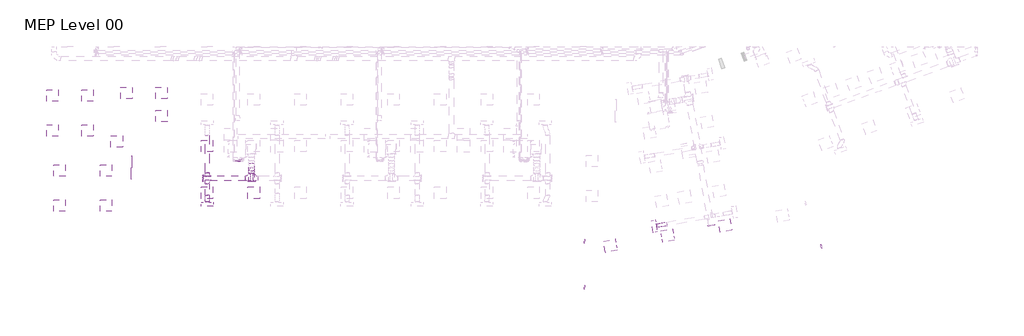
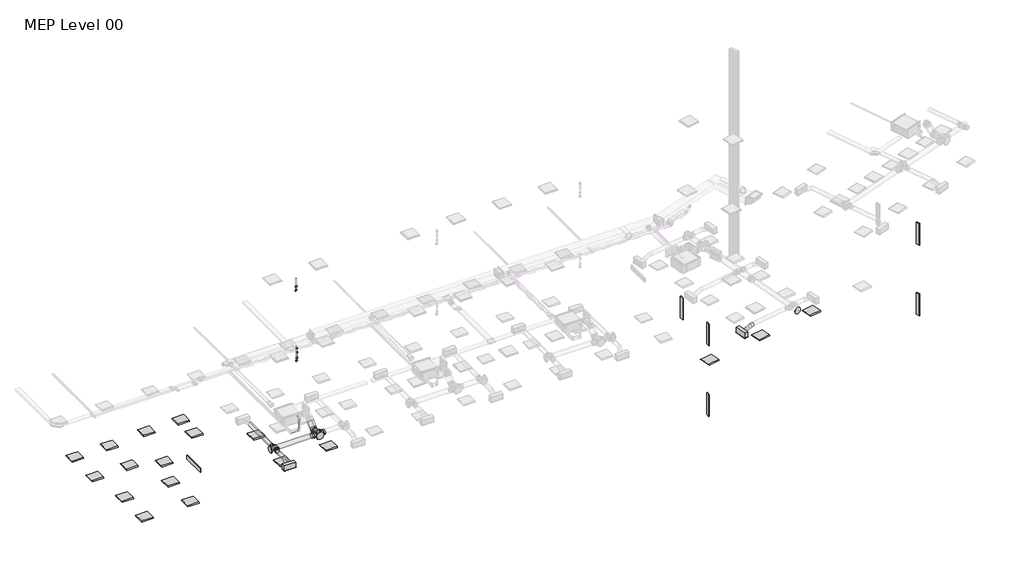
# One storey, part 1 of 33: 24 light fixtures, 8 duct fittings, 7 duct segments, 7 pipe segments, 6 pipe fittings, 2 air terminals.
"""IFC4 building model written with IfcOpenShell, lengths in millimetres."""

from ifc_helpers import new_model, si_unit, point, frame, frame_2d, origin, place, context, project, spatial, circle_curve, ellipse_curve, trimmed, segment, composite_curve, outline, extrude, transform, mapped, element, save
from ifc_brep_helpers import plane_surface, cylinder_surface, advanced_brep
from components import supply_diffuser_with_plenum_linear_slot_hosted_8c379eed, dw144_round_blank_end_standard_f82b0856, dw144_round_blank_end_standard_9aa061e7, dw144_round_segmented_bend_slip_joint_standard_8b80c5ae, dw144_round_shoe_branch_slip_joint_standard_15a2edd8, dw144_round_shoe_branch_slip_joint_standard_67b64720, light_fixture_600x600_230_1c7c1157, light_fixture_600x600_230_b730b5ca, plain_surface_lighting_fixture_200x1200_230_64c2163c, elbow_threaded_gmi_standard_b4aa7741

model = new_model("IFC4")

# Units and contexts
model_context = context("Model", 3, world=origin())
ifc_project = project(units=[si_unit("LENGTHUNIT", "METRE", prefix="MILLI")], contexts=[model_context])

# Site, building, storey
site = spatial("IfcSite", under=ifc_project)
building = spatial("IfcBuilding", under=site)
storey = spatial("IfcBuildingStorey", under=building, Name="MEP Level 00", Elevation=0.0)

# Air terminals
placement = place(None, origin())
supply_diffuser_with_plenum_linear_slot_hosted_shape = supply_diffuser_with_plenum_linear_slot_hosted_8c379eed(model_context)
element("IfcAirTerminal", 1, ObjectType="Supply Diffuser with Plenum - Linear Slot - Hosted : 600mmx193.8mm-200 In Inlet  4-Slot", at=placement, inside=storey, context=model_context, shape_type="MappedRepresentation", body=[
    mapped(supply_diffuser_with_plenum_linear_slot_hosted_shape, transform((9162.2000027, 963.2000004, 2800.0), x_axis=(1.0, 0.0, 0.0), y_axis=(0.0, -1.0, 0.0), z_axis=(0.0, 0.0, -1.0))),
])
element("IfcAirTerminal", 2, ObjectType="Supply Diffuser with Plenum - Linear Slot - Hosted : 600mmx193.8mm-200 In Inlet  4-Slot", at=placement, inside=storey, context=model_context, shape_type="MappedRepresentation", body=[
    mapped(supply_diffuser_with_plenum_linear_slot_hosted_shape, transform((32172.103094, -160.2535064, 2800.0), x_axis=(0.17364817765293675, -0.9848077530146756, 0.0), y_axis=(-0.9848077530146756, -0.17364817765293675, 0.0), z_axis=(0.0, 0.0, -1.0))),
])

# Duct fittings
dw144_round_blank_end_standard_shape = dw144_round_blank_end_standard_f82b0856(model_context)
element("IfcDuctFitting", 3, ObjectType="DW144 Round Blank End : Standard", at=placement, inside=storey, context=model_context, shape_type="MappedRepresentation", body=[
    mapped(dw144_round_blank_end_standard_shape, transform((11451.4561025, 2142.9916128, 3072.2088531), x_axis=(0.0, -1.0, 0.0), y_axis=(1.0, 0.0, 0.0), z_axis=(0.0, 0.0, 1.0))),
])
dw144_round_blank_end_standard_2_shape = dw144_round_blank_end_standard_9aa061e7(model_context)
element("IfcDuctFitting", 4, ObjectType="DW144 Round Blank End : Standard", at=placement, inside=storey, context=model_context, shape_type="MappedRepresentation", body=[
    mapped(dw144_round_blank_end_standard_2_shape, transform((8961.4561025, 2306.5018192, 3072.2088531), x_axis=(-1.0, 0.0, 0.0), y_axis=(0.0, -1.0, 0.0), z_axis=(0.0, 0.0, 1.0))),
])
element("IfcDuctFitting", 5, ObjectType="DW144 Round Blank End : Standard", at=placement, inside=storey, context=model_context, shape_type="MappedRepresentation", body=[
    mapped(dw144_round_blank_end_standard_2_shape, transform((35110.8297064, -106.9527609, 3072.2088531), x_axis=(0.17364817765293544, -0.9848077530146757, 0.0), y_axis=(0.0, 0.0, -1.0), z_axis=(0.9848077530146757, 0.17364817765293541, 0.0))),
])
dw144_round_segmented_bend_slip_joint_standard_shape = dw144_round_segmented_bend_slip_joint_standard_8b80c5ae(model_context)
element("IfcDuctFitting", 6, ObjectType="DW144 Round Segmented Bend - Slip Joint : Standard", at=placement, inside=storey, context=model_context, shape_type="MappedRepresentation", body=[
    mapped(dw144_round_segmented_bend_slip_joint_standard_shape, transform((11451.4561025, 2678.6338536, 3072.2088531), x_axis=(0.0, -0.7071067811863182, -0.7071067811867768), y_axis=(0.0, 0.7071067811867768, -0.7071067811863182), z_axis=(1.0, 0.0, 0.0))),
])
dw144_round_shoe_branch_slip_joint_standard_shape = dw144_round_shoe_branch_slip_joint_standard_15a2edd8(model_context)
element("IfcDuctFitting", 7, ObjectType="DW144 Round Shoe Branch - Slip Joint : Standard", at=placement, inside=storey, context=model_context, shape_type="MappedRepresentation", body=[
    mapped(dw144_round_shoe_branch_slip_joint_standard_shape, transform((9173.9000022, 2181.5018192, 3072.2088531), x_axis=(0.0, -1.0, 0.0), y_axis=(-1.0, 0.0, 0.0), z_axis=(0.0, 0.0, -1.0))),
])
element("IfcDuctFitting", 8, ObjectType="DW144 Round Shoe Branch - Slip Joint : Standard", at=placement, inside=storey, context=model_context, shape_type="MappedRepresentation", body=[
    mapped(dw144_round_shoe_branch_slip_joint_standard_shape, transform((9173.9000022, 2431.5018192, 3072.2088531), x_axis=(0.0, 1.0, 0.0), y_axis=(-1.0, 0.0, 0.0), z_axis=(0.0, 0.0, 1.0))),
])
dw144_round_shoe_branch_slip_joint_standard_2_shape = dw144_round_shoe_branch_slip_joint_standard_67b64720(model_context)
element("IfcDuctFitting", 9, ObjectType="DW144 Round Shoe Branch - Slip Joint : Standard", at=placement, inside=storey, context=model_context, shape_type="MappedRepresentation", body=[
    mapped(dw144_round_shoe_branch_slip_joint_standard_2_shape, transform((11601.4561025, 2306.5018192, 3072.2088531), x_axis=(1.0, 0.0, 0.0), y_axis=(0.0, -1.0, 0.0), z_axis=(0.0, 0.0, -1.0))),
])
element("IfcDuctFitting", 10, ObjectType="DW144 Round Shoe Branch - Slip Joint : Standard", at=placement, inside=storey, context=model_context, shape_type="MappedRepresentation", body=[
    mapped(dw144_round_shoe_branch_slip_joint_standard_2_shape, transform((11301.4561025, 2306.5018192, 3072.2088531), x_axis=(-1.0, 0.0, 0.0), y_axis=(0.0, -1.0, 0.0), z_axis=(0.0, 0.0, 1.0))),
])

# Duct segments
element("IfcDuctSegment", 11, ObjectType="DW144 Segmented Bend / Shoe Branch", at=placement, inside=storey, context=model_context, shape_type="SweptSolid", body=[
    extrude(outline(composite_curve([segment(trimmed(circle_curve(frame_2d((3072.2088531, 11451.4561025)), 150.0), [point((3072.2088531, 11301.4561025))], [point((2922.2088531, 11451.4561025))], False, "CARTESIAN"), True, "CONTINUOUS"), segment(trimmed(circle_curve(frame_2d((3072.2088531, 11451.4561025)), 150.0), [point((2922.2088531, 11451.4561025))], [point((3072.2088531, 11601.4561025))], False, "CARTESIAN"), True, "CONTINUOUS"), segment(trimmed(circle_curve(frame_2d((3072.2088531, 11451.4561025)), 150.0), [point((3072.2088531, 11601.4561025))], [point((3222.2088531, 11451.4561025))], False, "CARTESIAN"), True, "CONTINUOUS"), segment(trimmed(circle_curve(frame_2d((3072.2088531, 11451.4561025)), 150.0), [point((3222.2088531, 11451.4561025))], [point((3072.2088531, 11301.4561025))], False, "CARTESIAN"), True, "CONTINUOUS")], self_intersect=False)), frame((0.0, 2142.9916128, 0.0), z_axis=(0.0, 1.0, 0.0), x_axis=(0.0, 0.0, 1.0)), (0.0, 0.0, 1.0), 411.3781721),
])
element("IfcDuctSegment", 12, ObjectType="DW144 Segmented Bend / Shoe Branch", at=placement, inside=storey, context=model_context, shape_type="SweptSolid", body=[
    extrude(outline(composite_curve([segment(trimmed(circle_curve(frame_2d((0.0, -150.0)), 150.0), [point((-150.0, -150.0))], [point((0.0, 0.0))], False, "CARTESIAN"), True, "CONTINUOUS"), segment(trimmed(circle_curve(frame_2d((0.0, -150.0)), 150.0), [point((0.0, 0.0))], [point((150.0, -150.0))], False, "CARTESIAN"), True, "CONTINUOUS"), segment(trimmed(circle_curve(frame_2d((0.0, -150.0)), 150.0), [point((150.0, -150.0))], [point((0.0, -300.0))], False, "CARTESIAN"), True, "CONTINUOUS"), segment(trimmed(circle_curve(frame_2d((0.0, -150.0)), 150.0), [point((0.0, -300.0))], [point((-150.0, -150.0))], False, "CARTESIAN"), True, "CONTINUOUS")], self_intersect=False)), frame((11451.4561025, 2872.5678364, 3054.0108016), z_axis=(0.0, 0.7071067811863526, 0.7071067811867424), x_axis=(1.0, 0.0, 0.0)), (0.0, 0.0, 1.0), 313.4324567),
])
element("IfcDuctSegment", 13, ObjectType="DW144 Segmented Bend / Shoe Branch", at=placement, inside=storey, context=model_context, shape_type="SweptSolid", body=[
    extrude(outline(composite_curve([segment(trimmed(circle_curve(frame_2d((2306.5018192, 3072.2088531)), 125.0), [point((2431.5018192, 3072.2088531))], [point((2306.5018192, 2947.2088531))], False, "CARTESIAN"), True, "CONTINUOUS"), segment(trimmed(circle_curve(frame_2d((2306.5018192, 3072.2088531)), 125.0), [point((2306.5018192, 2947.2088531))], [point((2181.5018192, 3072.2088531))], False, "CARTESIAN"), True, "CONTINUOUS"), segment(trimmed(circle_curve(frame_2d((2306.5018192, 3072.2088531)), 125.0), [point((2181.5018192, 3072.2088531))], [point((2306.5018192, 3197.2088531))], False, "CARTESIAN"), True, "CONTINUOUS"), segment(trimmed(circle_curve(frame_2d((2306.5018192, 3072.2088531)), 125.0), [point((2306.5018192, 3197.2088531))], [point((2431.5018192, 3072.2088531))], False, "CARTESIAN"), True, "CONTINUOUS")], self_intersect=False)), frame((8961.4561025, 0.0, 0.0), z_axis=(1.0, 0.0, 0.0), x_axis=(0.0, 1.0, 0.0)), (0.0, 0.0, 1.0), 2165.0),
])
element("IfcDuctSegment", 14, ObjectType="DW144 Segmented Bend / Shoe Branch", at=placement, inside=storey, context=model_context, shape_type="SweptSolid", body=[
    extrude(outline(composite_curve([segment(trimmed(circle_curve(frame_2d((3072.2088531, 9173.9000022)), 100.0), [point((3072.2088531, 9273.9000022))], [point((3172.2088531, 9173.9000022))], False, "CARTESIAN"), True, "CONTINUOUS"), segment(trimmed(circle_curve(frame_2d((3072.2088531, 9173.9000022)), 100.0), [point((3172.2088531, 9173.9000022))], [point((3072.2088531, 9073.9000022))], False, "CARTESIAN"), True, "CONTINUOUS"), segment(trimmed(circle_curve(frame_2d((3072.2088531, 9173.9000022)), 100.0), [point((3072.2088531, 9073.9000022))], [point((2972.2088531, 9173.9000022))], False, "CARTESIAN"), True, "CONTINUOUS"), segment(trimmed(circle_curve(frame_2d((3072.2088531, 9173.9000022)), 100.0), [point((2972.2088531, 9173.9000022))], [point((3072.2088531, 9273.9000022))], False, "CARTESIAN"), True, "CONTINUOUS")], self_intersect=False)), frame((0.0, 1441.5018192, 0.0), z_axis=(0.0, 1.0, 0.0), x_axis=(0.0, 0.0, 1.0)), (0.0, 0.0, 1.0), 590.0),
])
element("IfcDuctSegment", 15, ObjectType="DW144 Segmented Bend / Shoe Branch", at=placement, inside=storey, context=model_context, shape_type="SweptSolid", body=[
    extrude(outline(composite_curve([segment(trimmed(circle_curve(frame_2d((3072.2088531, 9173.9000022)), 100.0), [point((3072.2088531, 9273.9000022))], [point((3172.2088531, 9173.9000022))], False, "CARTESIAN"), True, "CONTINUOUS"), segment(trimmed(circle_curve(frame_2d((3072.2088531, 9173.9000022)), 100.0), [point((3172.2088531, 9173.9000022))], [point((3072.2088531, 9073.9000022))], False, "CARTESIAN"), True, "CONTINUOUS"), segment(trimmed(circle_curve(frame_2d((3072.2088531, 9173.9000022)), 100.0), [point((3072.2088531, 9073.9000022))], [point((2972.2088531, 9173.9000022))], False, "CARTESIAN"), True, "CONTINUOUS"), segment(trimmed(circle_curve(frame_2d((3072.2088531, 9173.9000022)), 100.0), [point((2972.2088531, 9173.9000022))], [point((3072.2088531, 9273.9000022))], False, "CARTESIAN"), True, "CONTINUOUS")], self_intersect=False)), frame((0.0, 2581.5018192, 0.0), z_axis=(0.0, 1.0, 0.0), x_axis=(0.0, 0.0, 1.0)), (0.0, 0.0, 1.0), 1950.0),
])
element("IfcDuctSegment", 16, ObjectType="Flex - Round", at=placement, inside=storey, context=model_context, shape_type="AdvancedBrep", body=[
    advanced_brep(
    [(9273.9000022, 1441.5018192, 3072.2088531), (9173.9000022, 1441.5018192, 2972.2088531), (9073.9000022, 1441.5018192, 3072.2088531), (9173.9000022, 1441.5018192, 3172.2088531), (9273.9000022, 1419.9886644, 3072.2088531), (9173.9000022, 1434.4041273, 2972.2088531), (9073.9000022, 1422.5932881, 3072.2088531), (9173.9000022, 1408.1778252, 3172.2088531), (9262.2000027, 1092.1000004, 2954.4), (9162.2000027, 1092.1000004, 3054.4), (9062.2000027, 1092.1000004, 2954.4), (9162.2000027, 1092.1000004, 2854.4), (9272.0154345, 1348.8904029, 3053.2328893), (9172.6402079, 1386.8764181, 2959.5238159), (9072.1283201, 1355.7538157, 3054.3695504), (9171.5035467, 1317.7678004, 3148.0786237), (9267.9552415, 1262.5544078, 3012.3502664), (9169.0041626, 1309.5595036, 2922.9119919), (9068.1447633, 1271.0474118, 3014.2585867), (9167.0958423, 1224.0423161, 3103.6968612), (9263.9716847, 1177.8480039, 2972.2393027), (9164.5964582, 1215.8340192, 2878.5302294), (9064.0845704, 1184.7114168, 2973.3759639), (9163.459797, 1146.7254015, 3067.0850372), (9262.2000027, 1111.0085316, 2954.4), (9162.2000027, 1125.4239944, 2854.4), (9062.2000027, 1113.6131552, 2954.4), (9162.2000027, 1099.1976924, 3054.4)],
    [
        (0, 1, circle_curve(frame((9173.9000022, 1441.5018192, 3072.2088531), z_axis=(0.0, 1.0, 0.0), x_axis=(1.0, 0.0, 0.0)), 100.0)),
        (1, 2, circle_curve(frame((9173.9000022, 1441.5018192, 3072.2088531), z_axis=(0.0, 1.0, 0.0), x_axis=(1.0, 0.0, 0.0)), 100.0)),
        (2, 3, circle_curve(frame((9173.9000022, 1441.5018192, 3072.2088531), z_axis=(0.0, 1.0, 0.0), x_axis=(1.0, 0.0, 0.0)), 100.0)),
        (3, 0, circle_curve(frame((9173.9000022, 1441.5018192, 3072.2088531), z_axis=(0.0, 1.0, 0.0), x_axis=(1.0, 0.0, 0.0)), 100.0)),
        (0, 4),
        (4, 5, ellipse_curve(frame((9173.9000022, 1421.2909763, 3072.2088531), z_axis=(0.012911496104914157, 0.9914289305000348, 0.13000757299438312), x_axis=(-0.0979801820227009, 0.13064714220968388, -0.9865754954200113)), 100.8645168, 100.0)),
        (5, 1),
        (5, 6, ellipse_curve(frame((9173.9000022, 1421.2909763, 3072.2088531), z_axis=(0.012911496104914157, 0.9914289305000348, 0.13000757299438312), x_axis=(-0.0979801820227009, 0.13064714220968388, -0.9865754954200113)), 100.8645168, 100.0)),
        (6, 2),
        (6, 7, ellipse_curve(frame((9173.9000022, 1421.2909763, 3072.2088531), z_axis=(0.012911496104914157, 0.9914289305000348, 0.13000757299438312), x_axis=(-0.0979801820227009, 0.13064714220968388, -0.9865754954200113)), 100.8645168, 100.0)),
        (7, 3),
        (7, 4, ellipse_curve(frame((9173.9000022, 1421.2909763, 3072.2088531), z_axis=(0.012911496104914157, 0.9914289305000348, 0.13000757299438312), x_axis=(-0.0979801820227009, 0.13064714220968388, -0.9865754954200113)), 100.8645168, 100.0)),
        (8, 9, circle_curve(frame((9162.2000027, 1092.1000004, 2954.4), z_axis=(0.0, -1.0, 0.0), x_axis=(1.0, 0.0, 0.0)), 100.0)),
        (9, 10, circle_curve(frame((9162.2000027, 1092.1000004, 2954.4), z_axis=(0.0, -1.0, 0.0), x_axis=(1.0, 0.0, 0.0)), 100.0)),
        (10, 11, circle_curve(frame((9162.2000027, 1092.1000004, 2954.4), z_axis=(0.0, -1.0, 0.0), x_axis=(1.0, 0.0, 0.0)), 100.0)),
        (11, 8, circle_curve(frame((9162.2000027, 1092.1000004, 2954.4), z_axis=(0.0, -1.0, 0.0), x_axis=(1.0, 0.0, 0.0)), 100.0)),
        (4, 12),
        (12, 13, ellipse_curve(frame((9172.0718773, 1352.3221093, 3053.8012198), z_axis=(0.03417490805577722, 0.9383065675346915, 0.34411169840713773), x_axis=(-0.0927302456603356, 0.3458045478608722, -0.9337131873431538)), 100.4159667, 100.0)),
        (13, 5),
        (13, 14, ellipse_curve(frame((9172.0718773, 1352.3221093, 3053.8012198), z_axis=(0.03417490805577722, 0.9383065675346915, 0.34411169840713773), x_axis=(-0.0927302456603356, 0.3458045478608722, -0.9337131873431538)), 100.4159667, 100.0)),
        (14, 6),
        (14, 15, ellipse_curve(frame((9172.0718773, 1352.3221093, 3053.8012198), z_axis=(0.03417490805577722, 0.9383065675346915, 0.34411169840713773), x_axis=(-0.0927302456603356, 0.3458045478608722, -0.9337131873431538)), 100.4159667, 100.0)),
        (15, 7),
        (15, 12, ellipse_curve(frame((9172.0718773, 1352.3221093, 3053.8012198), z_axis=(0.03417490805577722, 0.9383065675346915, 0.34411169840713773), x_axis=(-0.0927302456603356, 0.3458045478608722, -0.9337131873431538)), 100.4159667, 100.0)),
        (12, 16),
        (16, 17, circle_curve(frame((9168.0500024, 1266.8009098, 3013.3044266), z_axis=(0.04246501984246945, 0.9029767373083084, 0.4275859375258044), x_axis=(0.9990523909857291, -0.04246501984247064, -0.009541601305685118)), 100.0)),
        (17, 13),
        (17, 18, circle_curve(frame((9168.0500024, 1266.8009098, 3013.3044266), z_axis=(0.04246501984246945, 0.9029767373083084, 0.4275859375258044), x_axis=(0.9990523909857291, -0.04246501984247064, -0.009541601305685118)), 100.0)),
        (18, 14),
        (18, 19, circle_curve(frame((9168.0500024, 1266.8009098, 3013.3044266), z_axis=(0.04246501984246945, 0.9029767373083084, 0.4275859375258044), x_axis=(0.9990523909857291, -0.04246501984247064, -0.009541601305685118)), 100.0)),
        (19, 15),
        (19, 16, circle_curve(frame((9168.0500024, 1266.8009098, 3013.3044266), z_axis=(0.04246501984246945, 0.9029767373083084, 0.4275859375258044), x_axis=(0.9990523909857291, -0.04246501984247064, -0.009541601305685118)), 100.0)),
        (16, 20),
        (20, 21, ellipse_curve(frame((9164.0281276, 1181.2797104, 2972.8076333), z_axis=(0.034174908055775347, 0.9383065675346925, 0.3441116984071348), x_axis=(0.09273024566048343, -0.34580454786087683, 0.9337131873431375)), 100.4159667, 100.0)),
        (21, 17),
        (21, 22, ellipse_curve(frame((9164.0281276, 1181.2797104, 2972.8076333), z_axis=(0.034174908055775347, 0.9383065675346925, 0.3441116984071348), x_axis=(0.09273024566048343, -0.34580454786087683, 0.9337131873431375)), 100.4159667, 100.0)),
        (22, 18),
        (22, 23, ellipse_curve(frame((9164.0281276, 1181.2797104, 2972.8076333), z_axis=(0.034174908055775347, 0.9383065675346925, 0.3441116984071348), x_axis=(0.09273024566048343, -0.34580454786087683, 0.9337131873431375)), 100.4159667, 100.0)),
        (23, 19),
        (23, 20, ellipse_curve(frame((9164.0281276, 1181.2797104, 2972.8076333), z_axis=(0.034174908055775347, 0.9383065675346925, 0.3441116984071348), x_axis=(0.09273024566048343, -0.34580454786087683, 0.9337131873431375)), 100.4159667, 100.0)),
        (20, 24),
        (24, 25, ellipse_curve(frame((9162.2000027, 1112.3108434, 2954.4), z_axis=(0.012911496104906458, 0.9914289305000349, 0.1300075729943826), x_axis=(0.09798018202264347, -0.13064714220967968, 0.9865754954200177)), 100.8645168, 100.0)),
        (25, 21),
        (25, 26, ellipse_curve(frame((9162.2000027, 1112.3108434, 2954.4), z_axis=(0.012911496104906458, 0.9914289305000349, 0.1300075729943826), x_axis=(0.09798018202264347, -0.13064714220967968, 0.9865754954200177)), 100.8645168, 100.0)),
        (26, 22),
        (26, 27, ellipse_curve(frame((9162.2000027, 1112.3108434, 2954.4), z_axis=(0.012911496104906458, 0.9914289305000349, 0.1300075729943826), x_axis=(0.09798018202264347, -0.13064714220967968, 0.9865754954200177)), 100.8645168, 100.0)),
        (27, 23),
        (27, 24, ellipse_curve(frame((9162.2000027, 1112.3108434, 2954.4), z_axis=(0.012911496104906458, 0.9914289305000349, 0.1300075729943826), x_axis=(0.09798018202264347, -0.13064714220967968, 0.9865754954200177)), 100.8645168, 100.0)),
        (24, 8),
        (11, 25),
        (10, 26),
        (9, 27),
    ],
    [
        plane_surface(frame((9073.9000022, 1441.5018192, 3072.2088531), z_axis=(0.0, 1.0, 0.0), x_axis=(0.0, 0.0, -1.0))),
        cylinder_surface(frame((9173.9000022, 1441.5018192, 3072.2088531), z_axis=(0.0, 1.0, 0.0), x_axis=(1.0, 0.0, 0.0)), 100.0),
        plane_surface(frame((9062.2000027, 1092.1000004, 2954.4), z_axis=(0.0, -1.0, 0.0), x_axis=(0.0, 0.0, -1.0))),
        cylinder_surface(frame((9173.9000022, 1421.2909763, 3072.2088531), z_axis=(0.02560166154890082, 0.965862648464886, 0.25778653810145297), x_axis=(0.9996665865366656, -0.02560166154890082, -0.003357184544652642)), 100.0),
        cylinder_surface(frame((9172.0718773, 1352.3221093, 3053.8012198), z_axis=(0.04246501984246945, 0.9029767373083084, 0.4275859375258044), x_axis=(0.9990523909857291, -0.04246501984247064, -0.009541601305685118)), 100.0),
        cylinder_surface(frame((9168.0500024, 1266.8009098, 3013.3044266), z_axis=(0.04246501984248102, 0.90297673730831, 0.4275859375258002), x_axis=(0.9990523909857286, -0.042465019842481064, -0.00954160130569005)), 100.0),
        cylinder_surface(frame((9164.0281276, 1181.2797104, 2972.8076333), z_axis=(0.02560166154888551, 0.9658626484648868, 0.2577865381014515), x_axis=(0.999666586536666, -0.025601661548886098, -0.0033571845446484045)), 100.0),
        cylinder_surface(frame((9162.2000027, 1112.3108434, 2954.4), z_axis=(0.0, 1.0, 0.0), x_axis=(1.0, 0.0, 0.0)), 100.0),
    ],
    [
        (0, [[1, 2, 3, 4]]),
        (1, [[-1, 5, 6, 7]]),
        (1, [[-2, -7, 8, 9]]),
        (1, [[-3, -9, 10, 11]]),
        (1, [[-4, -11, 12, -5]]),
        (2, [[13, 14, 15, 16]]),
        (3, [[-6, 17, 18, 19]]),
        (3, [[-8, -19, 20, 21]]),
        (3, [[-10, -21, 22, 23]]),
        (3, [[-12, -23, 24, -17]]),
        (4, [[-18, 25, 26, 27]]),
        (4, [[-20, -27, 28, 29]]),
        (4, [[-22, -29, 30, 31]]),
        (4, [[-24, -31, 32, -25]]),
        (5, [[-26, 33, 34, 35]]),
        (5, [[-28, -35, 36, 37]]),
        (5, [[-30, -37, 38, 39]]),
        (5, [[-32, -39, 40, -33]]),
        (6, [[-34, 41, 42, 43]]),
        (6, [[-36, -43, 44, 45]]),
        (6, [[-38, -45, 46, 47]]),
        (6, [[-40, -47, 48, -41]]),
        (7, [[-42, 49, -16, 50]]),
        (7, [[-44, -50, -15, 51]]),
        (7, [[-46, -51, -14, 52]]),
        (7, [[-48, -52, -13, -49]]),
    ],
),
])
element("IfcDuctSegment", 17, ObjectType="Flex - Round", at=placement, inside=storey, context=model_context, shape_type="AdvancedBrep", body=[
    advanced_brep(
    [(32832.8785941, -145.2836188, 3072.2088531), (32815.5137763, -46.8028435, 2972.2088531), (32798.1489586, 51.6779318, 3072.2088531), (32815.5137763, -46.8028435, 3172.2088531), (32819.3106048, -147.6760213, 3072.2088531), (32809.5455151, -47.8552089, 2972.2088531), (32784.5809693, 49.2855293, 3072.2088531), (32794.3460591, -50.5352831, 3172.2088531), (32316.4096312, -236.3510316, 2954.4), (32299.0448134, -137.8702563, 3054.4), (32281.6799956, -39.389481, 2954.4), (32299.0448134, -137.8702563, 2854.4), (32702.5547132, -168.2632352, 3053.8012198), (32707.5239218, -65.8443685, 2956.1242166), (32667.8250777, 28.6983154, 3053.8012198), (32662.8558691, -73.7205513, 3151.478223), (32574.6441126, -190.8173252, 3013.3044266), (32586.5930356, -87.1677465, 2917.8372171), (32539.9144771, 6.1442254, 3013.3044266), (32527.9655541, -97.5053533, 3108.771636), (32446.7335121, -213.3714152, 2972.8076333), (32451.7027206, -110.9525485, 2875.1306301), (32412.0038765, -16.4098646, 2972.8076333), (32407.0346679, -118.8287313, 3070.4846365), (32329.9776204, -233.958629, 2954.4), (32320.2125306, -134.1378166, 2854.4), (32295.2479849, -36.9970784, 2954.4), (32305.0130746, -136.8178908, 3054.4)],
    [
        (0, 1, circle_curve(frame((32815.5137763, -46.8028435, 3072.2088531), z_axis=(0.9848077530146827, 0.17364817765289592, 0.0), x_axis=(0.17364817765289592, -0.9848077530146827, 0.0)), 100.0)),
        (1, 2, circle_curve(frame((32815.5137763, -46.8028435, 3072.2088531), z_axis=(0.9848077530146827, 0.17364817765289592, 0.0), x_axis=(0.17364817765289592, -0.9848077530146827, 0.0)), 100.0)),
        (2, 3, circle_curve(frame((32815.5137763, -46.8028435, 3072.2088531), z_axis=(0.9848077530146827, 0.17364817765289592, 0.0), x_axis=(0.17364817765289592, -0.9848077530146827, 0.0)), 100.0)),
        (3, 0, circle_curve(frame((32815.5137763, -46.8028435, 3072.2088531), z_axis=(0.9848077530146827, 0.17364817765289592, 0.0), x_axis=(0.17364817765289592, -0.9848077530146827, 0.0)), 100.0)),
        (0, 4),
        (4, 5, ellipse_curve(frame((32801.9457871, -49.195246, 3072.2088531), z_axis=(0.9818884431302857, 0.17313342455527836, 0.07694090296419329), x_axis=(0.07577199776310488, 0.013360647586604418, -0.997035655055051)), 100.2973158, 100.0)),
        (5, 1),
        (5, 6, ellipse_curve(frame((32801.9457871, -49.195246, 3072.2088531), z_axis=(0.9818884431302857, 0.17313342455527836, 0.07694090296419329), x_axis=(0.07577199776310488, 0.013360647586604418, -0.997035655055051)), 100.2973158, 100.0)),
        (6, 2),
        (6, 7, ellipse_curve(frame((32801.9457871, -49.195246, 3072.2088531), z_axis=(0.9818884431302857, 0.17313342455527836, 0.07694090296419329), x_axis=(0.07577199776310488, 0.013360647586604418, -0.997035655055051)), 100.2973158, 100.0)),
        (7, 3),
        (7, 4, ellipse_curve(frame((32801.9457871, -49.195246, 3072.2088531), z_axis=(0.9818884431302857, 0.17313342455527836, 0.07694090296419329), x_axis=(0.07577199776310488, 0.013360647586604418, -0.997035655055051)), 100.2973158, 100.0)),
        (8, 9, circle_curve(frame((32299.0448134, -137.8702563, 2954.4), z_axis=(-0.9848077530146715, -0.17364817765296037, 0.0), x_axis=(0.17364817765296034, -0.9848077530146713, 0.0)), 100.0)),
        (9, 10, circle_curve(frame((32299.0448134, -137.8702563, 2954.4), z_axis=(-0.9848077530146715, -0.17364817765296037, 0.0), x_axis=(0.17364817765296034, -0.9848077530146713, 0.0)), 100.0)),
        (10, 11, circle_curve(frame((32299.0448134, -137.8702563, 2954.4), z_axis=(-0.9848077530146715, -0.17364817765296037, 0.0), x_axis=(0.17364817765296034, -0.9848077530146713, 0.0)), 100.0)),
        (11, 8, circle_curve(frame((32299.0448134, -137.8702563, 2954.4), z_axis=(-0.9848077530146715, -0.17364817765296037, 0.0), x_axis=(0.17364817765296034, -0.9848077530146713, 0.0)), 100.0)),
        (4, 12),
        (12, 13, ellipse_curve(frame((32685.1898954, -69.7824599, 3053.8012198), z_axis=(0.9592908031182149, 0.16914885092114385, 0.22616326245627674), x_axis=(0.22272733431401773, 0.03927283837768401, -0.9740894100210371)), 100.2751926, 100.0)),
        (13, 5),
        (13, 14, ellipse_curve(frame((32685.1898954, -69.7824599, 3053.8012198), z_axis=(0.9592908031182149, 0.16914885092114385, 0.22616326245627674), x_axis=(0.22272733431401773, 0.03927283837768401, -0.9740894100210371)), 100.2751926, 100.0)),
        (14, 6),
        (14, 15, ellipse_curve(frame((32685.1898954, -69.7824599, 3053.8012198), z_axis=(0.9592908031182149, 0.16914885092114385, 0.22616326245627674), x_axis=(0.22272733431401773, 0.03927283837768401, -0.9740894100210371)), 100.2751926, 100.0)),
        (15, 7),
        (15, 12, ellipse_curve(frame((32685.1898954, -69.7824599, 3053.8012198), z_axis=(0.9592908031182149, 0.16914885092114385, 0.22616326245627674), x_axis=(0.22272733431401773, 0.03927283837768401, -0.9740894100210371)), 100.2751926, 100.0)),
        (12, 16),
        (16, 17, circle_curve(frame((32557.2792949, -92.3365499, 3013.3044266), z_axis=(0.9401684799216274, 0.16577706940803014, 0.2976595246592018), x_axis=(0.17364817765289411, -0.984807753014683, 0.0)), 100.0)),
        (17, 13),
        (17, 18, circle_curve(frame((32557.2792949, -92.3365499, 3013.3044266), z_axis=(0.9401684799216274, 0.16577706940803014, 0.2976595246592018), x_axis=(0.17364817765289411, -0.984807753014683, 0.0)), 100.0)),
        (18, 14),
        (18, 19, circle_curve(frame((32557.2792949, -92.3365499, 3013.3044266), z_axis=(0.9401684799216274, 0.16577706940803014, 0.2976595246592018), x_axis=(0.17364817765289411, -0.984807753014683, 0.0)), 100.0)),
        (19, 15),
        (19, 16, circle_curve(frame((32557.2792949, -92.3365499, 3013.3044266), z_axis=(0.9401684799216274, 0.16577706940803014, 0.2976595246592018), x_axis=(0.17364817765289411, -0.984807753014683, 0.0)), 100.0)),
        (16, 20),
        (20, 21, ellipse_curve(frame((32429.3686943, -114.8906399, 2972.8076333), z_axis=(0.959290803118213, 0.1691488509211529, 0.22616326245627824), x_axis=(-0.22272733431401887, -0.03927283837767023, 0.9740894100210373)), 100.2751926, 100.0)),
        (21, 17),
        (21, 22, ellipse_curve(frame((32429.3686943, -114.8906399, 2972.8076333), z_axis=(0.959290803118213, 0.1691488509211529, 0.22616326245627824), x_axis=(-0.22272733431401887, -0.03927283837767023, 0.9740894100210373)), 100.2751926, 100.0)),
        (22, 18),
        (22, 23, ellipse_curve(frame((32429.3686943, -114.8906399, 2972.8076333), z_axis=(0.959290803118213, 0.1691488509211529, 0.22616326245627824), x_axis=(-0.22272733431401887, -0.03927283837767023, 0.9740894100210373)), 100.2751926, 100.0)),
        (23, 19),
        (23, 20, ellipse_curve(frame((32429.3686943, -114.8906399, 2972.8076333), z_axis=(0.959290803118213, 0.1691488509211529, 0.22616326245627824), x_axis=(-0.22272733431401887, -0.03927283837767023, 0.9740894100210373)), 100.2751926, 100.0)),
        (20, 24),
        (24, 25, ellipse_curve(frame((32312.6128026, -135.4778537, 2954.4), z_axis=(0.9818884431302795, 0.1731334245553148, 0.07694090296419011), x_axis=(-0.07577199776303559, -0.013360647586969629, 0.9970356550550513)), 100.2973158, 100.0)),
        (25, 21),
        (25, 26, ellipse_curve(frame((32312.6128026, -135.4778537, 2954.4), z_axis=(0.9818884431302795, 0.1731334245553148, 0.07694090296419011), x_axis=(-0.07577199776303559, -0.013360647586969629, 0.9970356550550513)), 100.2973158, 100.0)),
        (26, 22),
        (26, 27, ellipse_curve(frame((32312.6128026, -135.4778537, 2954.4), z_axis=(0.9818884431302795, 0.1731334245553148, 0.07694090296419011), x_axis=(-0.07577199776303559, -0.013360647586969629, 0.9970356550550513)), 100.2973158, 100.0)),
        (27, 23),
        (27, 24, ellipse_curve(frame((32312.6128026, -135.4778537, 2954.4), z_axis=(0.9818884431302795, 0.1731334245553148, 0.07694090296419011), x_axis=(-0.07577199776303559, -0.013360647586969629, 0.9970356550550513)), 100.2973158, 100.0)),
        (24, 8),
        (11, 25),
        (10, 26),
        (9, 27),
    ],
    [
        plane_surface(frame((32815.5137763, -46.8028435, 2972.2088531), z_axis=(0.9848077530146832, 0.1736481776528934, 0.0), x_axis=(0.1736481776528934, -0.9848077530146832, 0.0))),
        cylinder_surface(frame((32815.5137763, -46.8028435, 3072.2088531), z_axis=(0.9848077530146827, 0.17364817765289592, 0.0), x_axis=(0.17364817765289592, -0.9848077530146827, 0.0)), 100.0),
        plane_surface(frame((32299.0448134, -137.8702563, 2854.4), z_axis=(-0.9848077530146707, -0.17364817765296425, 0.0), x_axis=(0.17364817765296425, -0.9848077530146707, 0.0))),
        cylinder_surface(frame((32801.9457871, -49.195246, 3072.2088531), z_axis=(0.9731478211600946, 0.17159221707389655, 0.15342564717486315), x_axis=(0.17364817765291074, -0.9848077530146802, 0.0)), 100.0),
        cylinder_surface(frame((32685.1898954, -69.7824599, 3053.8012198), z_axis=(0.9401684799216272, 0.1657770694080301, 0.29765952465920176), x_axis=(0.17364817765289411, -0.984807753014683, 0.0)), 100.0),
        cylinder_surface(frame((32557.2792949, -92.3365499, 3013.3044266), z_axis=(0.9401684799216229, 0.1657770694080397, 0.2976595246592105), x_axis=(0.17364817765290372, -0.9848077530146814, 0.0)), 100.0),
        cylinder_surface(frame((32429.3686943, -114.8906399, 2972.8076333), z_axis=(0.9731478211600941, 0.17159221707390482, 0.15342564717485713), x_axis=(0.17364817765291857, -0.9848077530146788, 0.0)), 100.0),
        cylinder_surface(frame((32312.6128026, -135.4778537, 2954.4), z_axis=(0.9848077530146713, 0.17364817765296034, 0.0), x_axis=(0.17364817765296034, -0.9848077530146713, 0.0)), 100.0),
    ],
    [
        (0, [[1, 2, 3, 4]]),
        (1, [[-1, 5, 6, 7]]),
        (1, [[-2, -7, 8, 9]]),
        (1, [[-3, -9, 10, 11]]),
        (1, [[-4, -11, 12, -5]]),
        (2, [[13, 14, 15, 16]]),
        (3, [[-6, 17, 18, 19]]),
        (3, [[-8, -19, 20, 21]]),
        (3, [[-10, -21, 22, 23]]),
        (3, [[-12, -23, 24, -17]]),
        (4, [[-18, 25, 26, 27]]),
        (4, [[-20, -27, 28, 29]]),
        (4, [[-22, -29, 30, 31]]),
        (4, [[-24, -31, 32, -25]]),
        (5, [[-26, 33, 34, 35]]),
        (5, [[-28, -35, 36, 37]]),
        (5, [[-30, -37, 38, 39]]),
        (5, [[-32, -39, 40, -33]]),
        (6, [[-34, 41, 42, 43]]),
        (6, [[-36, -43, 44, 45]]),
        (6, [[-38, -45, 46, 47]]),
        (6, [[-40, -47, 48, -41]]),
        (7, [[-42, 49, -16, 50]]),
        (7, [[-44, -50, -15, 51]]),
        (7, [[-46, -51, -14, 52]]),
        (7, [[-48, -52, -13, -49]]),
    ],
),
])

# Light fixtures
light_fixture_600x600_230_shape = light_fixture_600x600_230_1c7c1157(model_context)
element("IfcLightFixture", 18, ObjectType="ELEKTRA Recessed Lighting Fixture : 600x600 - 230", at=placement, inside=storey, context=model_context, shape_type="MappedRepresentation", body=[
    mapped(light_fixture_600x600_230_shape, transform((29669.4055208, -1515.4305638, 2800.0), x_axis=(0.9848077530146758, 0.17364817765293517, 0.0), y_axis=(0.17364817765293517, -0.9848077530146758, 0.0), z_axis=(0.0, 0.0, -1.0))),
])
element("IfcLightFixture", 19, ObjectType="ELEKTRA Recessed Lighting Fixture : 600x600 - 230", at=placement, inside=storey, context=model_context, shape_type="MappedRepresentation", body=[
    mapped(light_fixture_600x600_230_shape, transform((32623.8287798, -994.4860308, 2800.0), x_axis=(0.9848077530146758, 0.17364817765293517, 0.0), y_axis=(0.17364817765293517, -0.9848077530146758, 0.0), z_axis=(0.0, 0.0, -1.0))),
])
element("IfcLightFixture", 20, ObjectType="ELEKTRA Recessed Lighting Fixture : 600x600 - 230", at=placement, inside=storey, context=model_context, shape_type="MappedRepresentation", body=[
    mapped(light_fixture_600x600_230_shape, transform((8862.2000027, 1263.2000004, 2800.0), x_axis=(1.0, 0.0, 0.0), y_axis=(0.0, -1.0, 0.0), z_axis=(0.0, 0.0, -1.0))),
])
element("IfcLightFixture", 21, ObjectType="ELEKTRA Recessed Lighting Fixture : 600x600 - 230", at=placement, inside=storey, context=model_context, shape_type="MappedRepresentation", body=[
    mapped(light_fixture_600x600_230_shape, transform((11262.2000027, 1263.2000004, 2800.0), x_axis=(1.0, 0.0, 0.0), y_axis=(0.0, -1.0, 0.0), z_axis=(0.0, 0.0, -1.0))),
])
element("IfcLightFixture", 22, ObjectType="ELEKTRA Recessed Lighting Fixture : 600x600 - 230", at=placement, inside=storey, context=model_context, shape_type="MappedRepresentation", body=[
    mapped(light_fixture_600x600_230_shape, transform((6508.9500027, 6400.6000005, 2800.0), x_axis=(1.0, 0.0, 0.0), y_axis=(0.0, -1.0, 0.0), z_axis=(0.0, 0.0, -1.0))),
])
element("IfcLightFixture", 23, ObjectType="ELEKTRA Recessed Lighting Fixture : 600x600 - 230", at=placement, inside=storey, context=model_context, shape_type="MappedRepresentation", body=[
    mapped(light_fixture_600x600_230_shape, transform((4708.9500027, 6400.6000005, 2800.0), x_axis=(1.0, 0.0, 0.0), y_axis=(0.0, -1.0, 0.0), z_axis=(0.0, 0.0, -1.0))),
])
element("IfcLightFixture", 24, ObjectType="ELEKTRA Recessed Lighting Fixture : 600x600 - 230", at=placement, inside=storey, context=model_context, shape_type="MappedRepresentation", body=[
    mapped(light_fixture_600x600_230_shape, transform((6508.9500027, 5200.6000005, 2800.0), x_axis=(1.0, 0.0, 0.0), y_axis=(0.0, -1.0, 0.0), z_axis=(0.0, 0.0, -1.0))),
])
element("IfcLightFixture", 25, ObjectType="ELEKTRA Recessed Lighting Fixture : 600x600 - 230", at=placement, inside=storey, context=model_context, shape_type="MappedRepresentation", body=[
    mapped(light_fixture_600x600_230_shape, transform((899.8500022, 6263.6000007, 2800.0), x_axis=(1.0, 0.0, 0.0), y_axis=(0.0, -1.0, 0.0), z_axis=(0.0, 0.0, -1.0))),
])
element("IfcLightFixture", 26, ObjectType="ELEKTRA Recessed Lighting Fixture : 600x600 - 230", at=placement, inside=storey, context=model_context, shape_type="MappedRepresentation", body=[
    mapped(light_fixture_600x600_230_shape, transform((2699.8500022, 6263.6000007, 2800.0), x_axis=(1.0, 0.0, 0.0), y_axis=(0.0, -1.0, 0.0), z_axis=(0.0, 0.0, -1.0))),
])
element("IfcLightFixture", 27, ObjectType="ELEKTRA Recessed Lighting Fixture : 600x600 - 230", at=placement, inside=storey, context=model_context, shape_type="MappedRepresentation", body=[
    mapped(light_fixture_600x600_230_shape, transform((899.8500021, 4463.6000005, 2800.0), x_axis=(1.0, 0.0, 0.0), y_axis=(0.0, -1.0, 0.0), z_axis=(0.0, 0.0, -1.0))),
])
element("IfcLightFixture", 28, ObjectType="ELEKTRA Recessed Lighting Fixture : 600x600 - 230", at=placement, inside=storey, context=model_context, shape_type="MappedRepresentation", body=[
    mapped(light_fixture_600x600_230_shape, transform((1265.1000015, 599.5000004, 2800.0), x_axis=(1.0, 0.0, 0.0), y_axis=(0.0, -1.0, 0.0), z_axis=(0.0, 0.0, -1.0))),
])
element("IfcLightFixture", 29, ObjectType="ELEKTRA Recessed Lighting Fixture : 600x600 - 230", at=placement, inside=storey, context=model_context, shape_type="MappedRepresentation", body=[
    mapped(light_fixture_600x600_230_shape, transform((3665.1000015, 599.5000004, 2800.0), x_axis=(1.0, 0.0, 0.0), y_axis=(0.0, -1.0, 0.0), z_axis=(0.0, 0.0, -1.0))),
])
element("IfcLightFixture", 30, ObjectType="ELEKTRA Recessed Lighting Fixture : 600x600 - 230", at=placement, inside=storey, context=model_context, shape_type="MappedRepresentation", body=[
    mapped(light_fixture_600x600_230_shape, transform((1265.1000015, 2399.5000004, 2800.0), x_axis=(1.0, 0.0, 0.0), y_axis=(0.0, -1.0, 0.0), z_axis=(0.0, 0.0, -1.0))),
])
element("IfcLightFixture", 31, ObjectType="ELEKTRA Recessed Lighting Fixture : 600x600 - 230", at=placement, inside=storey, context=model_context, shape_type="MappedRepresentation", body=[
    mapped(light_fixture_600x600_230_shape, transform((4212.9500027, 3899.5000003, 2800.0), x_axis=(1.0, 0.0, 0.0), y_axis=(0.0, -1.0, 0.0), z_axis=(0.0, 0.0, -1.0))),
])
light_fixture_600x600_230_2_shape = light_fixture_600x600_230_b730b5ca(model_context)
element("IfcLightFixture", 32, ObjectType="ELEKTRA EM Recessed Lighting Fixture : 600x600 - 230", at=placement, inside=storey, context=model_context, shape_type="MappedRepresentation", body=[
    mapped(light_fixture_600x600_230_2_shape, transform((35578.2520389, -473.5414979, 2800.0), x_axis=(0.9848077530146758, 0.17364817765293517, 0.0), y_axis=(0.17364817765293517, -0.9848077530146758, 0.0), z_axis=(0.0, 0.0, -1.0))),
])
element("IfcLightFixture", 33, ObjectType="ELEKTRA EM Recessed Lighting Fixture : 600x600 - 230", at=placement, inside=storey, context=model_context, shape_type="MappedRepresentation", body=[
    mapped(light_fixture_600x600_230_2_shape, transform((8862.2000027, 3663.2000004, 2800.0), x_axis=(1.0, 0.0, 0.0), y_axis=(0.0, -1.0, 0.0), z_axis=(0.0, 0.0, -1.0))),
])
element("IfcLightFixture", 34, ObjectType="ELEKTRA EM Recessed Lighting Fixture : 600x600 - 230", at=placement, inside=storey, context=model_context, shape_type="MappedRepresentation", body=[
    mapped(light_fixture_600x600_230_2_shape, transform((2699.8500019, 4463.6000005, 2800.0), x_axis=(1.0, 0.0, 0.0), y_axis=(0.0, -1.0, 0.0), z_axis=(0.0, 0.0, -1.0))),
])
element("IfcLightFixture", 35, ObjectType="ELEKTRA EM Recessed Lighting Fixture : 600x600 - 230", at=placement, inside=storey, context=model_context, shape_type="MappedRepresentation", body=[
    mapped(light_fixture_600x600_230_2_shape, transform((3665.1000015, 2399.5000004, 2800.0), x_axis=(1.0, 0.0, 0.0), y_axis=(0.0, -1.0, 0.0), z_axis=(0.0, 0.0, -1.0))),
])
plain_surface_lighting_fixture_200x1200_230_shape = plain_surface_lighting_fixture_200x1200_230_64c2163c(model_context)
element("IfcLightFixture", 36, ObjectType="Plain Surface Lighting Fixture : 200x1200 - 230", at=placement, inside=storey, context=model_context, shape_type="MappedRepresentation", body=[
    mapped(plain_surface_lighting_fixture_200x1200_230_shape, transform((28564.8766926, -2669.6946701, 2438.8521354), x_axis=(0.0, 0.0, 1.0), y_axis=(-5.6002563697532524e-11, -1.0, 0.0), z_axis=(1.0, -5.6002563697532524e-11, 0.0))),
])
element("IfcLightFixture", 37, ObjectType="Plain Surface Lighting Fixture : 200x1200 - 230", at=placement, inside=storey, context=model_context, shape_type="MappedRepresentation", body=[
    mapped(plain_surface_lighting_fixture_200x1200_230_shape, transform((41007.2655529, -1794.4204217, 2438.8521354), x_axis=(0.0, 0.0, 1.0), y_axis=(-0.34202014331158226, 0.9396926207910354, 0.0), z_axis=(-0.9396926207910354, -0.34202014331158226, 0.0))),
])
element("IfcLightFixture", 38, ObjectType="Plain Surface Lighting Fixture : 200x1200 - 230", at=placement, inside=storey, context=model_context, shape_type="MappedRepresentation", body=[
    mapped(plain_surface_lighting_fixture_200x1200_230_shape, transform((5259.2000025, 3193.4813411, 2611.4786995), x_axis=(4.169267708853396e-11, 1.0, 0.0), y_axis=(0.0, 0.0, 1.0), z_axis=(1.0, -4.169267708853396e-11, 0.0))),
])
element("IfcLightFixture", 39, ObjectType="Plain Surface Lighting Fixture : 200x1200 - 230", at=placement, inside=storey, context=model_context, shape_type="MappedRepresentation", body=[
    mapped(plain_surface_lighting_fixture_200x1200_230_shape, transform((28564.8766926, -2669.6946701, 6338.8521354), x_axis=(0.0, 0.0, 1.0), y_axis=(-5.6002563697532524e-11, -1.0, 0.0), z_axis=(1.0, -5.6002563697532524e-11, 0.0))),
])
element("IfcLightFixture", 40, ObjectType="Plain Surface Lighting Fixture : 200x1200 - 230", at=placement, inside=storey, context=model_context, shape_type="MappedRepresentation", body=[
    mapped(plain_surface_lighting_fixture_200x1200_230_shape, transform((41007.2655529, -1794.4204217, 6338.8521354), x_axis=(0.0, 0.0, 1.0), y_axis=(-0.34202014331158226, 0.9396926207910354, 0.0), z_axis=(-0.9396926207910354, -0.34202014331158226, 0.0))),
])
element("IfcLightFixture", 41, ObjectType="Plain Surface Lighting Fixture : 200x1200 - 230", at=placement, inside=storey, context=model_context, shape_type="MappedRepresentation", body=[
    mapped(plain_surface_lighting_fixture_200x1200_230_shape, transform((28564.8766927, -300.0733679, 6338.8521354), x_axis=(0.0, 0.0, 1.0), y_axis=(-5.6002563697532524e-11, -1.0, 0.0), z_axis=(1.0, -5.6002563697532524e-11, 0.0))),
])

# Pipe fittings
elbow_threaded_gmi_standard_shape = elbow_threaded_gmi_standard_b4aa7741(model_context)
element("IfcPipeFitting", 42, ObjectType="Elbow - Threaded - GMI : Standard", at=placement, inside=storey, context=model_context, shape_type="MappedRepresentation", body=[
    mapped(elbow_threaded_gmi_standard_shape, transform((10815.2441119, 3177.232951, 10693.9343179), x_axis=(0.0, 0.0, -1.0), y_axis=(-1.0, 0.0, 0.0), z_axis=(0.0, 1.0, 0.0))),
])
element("IfcPipeFitting", 43, ObjectType="Elbow - Threaded - GMI : Standard", at=placement, inside=storey, context=model_context, shape_type="MappedRepresentation", body=[
    mapped(elbow_threaded_gmi_standard_shape, transform((10866.0441119, 3246.7427522, 10834.6193977), x_axis=(0.0, 0.0, -1.0), y_axis=(-1.0, 0.0, 0.0), z_axis=(0.0, 1.0, 0.0))),
])
element("IfcPipeFitting", 44, ObjectType="Elbow - Threaded - GMI : Standard", at=placement, inside=storey, context=model_context, shape_type="MappedRepresentation", body=[
    mapped(elbow_threaded_gmi_standard_shape, transform((10848.8561025, 3177.232951, 6793.9343179), x_axis=(0.0, 0.0, -1.0), y_axis=(-1.0, 0.0, 0.0), z_axis=(0.0, 1.0, 0.0))),
])
element("IfcPipeFitting", 45, ObjectType="Elbow - Threaded - GMI : Standard", at=placement, inside=storey, context=model_context, shape_type="MappedRepresentation", body=[
    mapped(elbow_threaded_gmi_standard_shape, transform((10899.6561025, 3246.7427522, 6880.0), x_axis=(0.0, 0.0, -1.0), y_axis=(-1.0, 0.0, 0.0), z_axis=(0.0, 1.0, 0.0))),
])
element("IfcPipeFitting", 46, ObjectType="Elbow - Threaded - GMI : Standard", at=placement, inside=storey, context=model_context, shape_type="MappedRepresentation", body=[
    mapped(elbow_threaded_gmi_standard_shape, transform((10848.8561025, 3177.232951, 7503.3911538), x_axis=(0.0, 0.0, 1.0), y_axis=(0.0, 1.0, 0.0), z_axis=(-1.0, 0.0, 0.0))),
])
element("IfcPipeFitting", 47, ObjectType="Elbow - Threaded - GMI : Standard", at=placement, inside=storey, context=model_context, shape_type="MappedRepresentation", body=[
    mapped(elbow_threaded_gmi_standard_shape, transform((10899.6561025, 3246.7427522, 7223.9911538), x_axis=(0.0, 0.0, 1.0), y_axis=(0.0, 1.0, 0.0), z_axis=(-1.0, 0.0, 0.0))),
])

# Pipe segments
element("IfcPipeSegment", 48, ObjectType="Carbon Steel - Threaded", at=placement, inside=storey, context=model_context, shape_type="SweptSolid", body=[
    extrude(outline(composite_curve([segment(trimmed(circle_curve(frame_2d((10815.2441119, 3177.232951)), 21.45), [point((10836.6941119, 3177.232951))], [point((10815.2441119, 3155.782951))], False, "CARTESIAN"), True, "CONTINUOUS"), segment(trimmed(circle_curve(frame_2d((10815.2441119, 3177.232951)), 21.45), [point((10815.2441119, 3155.782951))], [point((10793.7941119, 3177.232951))], False, "CARTESIAN"), True, "CONTINUOUS"), segment(trimmed(circle_curve(frame_2d((10815.2441119, 3177.232951)), 21.45), [point((10793.7941119, 3177.232951))], [point((10815.2441119, 3198.682951))], False, "CARTESIAN"), True, "CONTINUOUS"), segment(trimmed(circle_curve(frame_2d((10815.2441119, 3177.232951)), 21.45), [point((10815.2441119, 3198.682951))], [point((10836.6941119, 3177.232951))], False, "CARTESIAN"), True, "CONTINUOUS")], self_intersect=False)), frame((0.0, 0.0, 10738.9343179), z_axis=(0.0, 0.0, 1.0), x_axis=(1.0, 0.0, 0.0)), (0.0, 0.0, 1.0), 619.4568359),
])
element("IfcPipeSegment", 49, ObjectType="Carbon Steel - Threaded", at=placement, inside=storey, context=model_context, shape_type="SweptSolid", body=[
    extrude(outline(composite_curve([segment(trimmed(circle_curve(frame_2d((10866.0441119, 3246.7427522)), 21.45), [point((10887.4941119, 3246.7427522))], [point((10866.0441119, 3225.2927522))], False, "CARTESIAN"), True, "CONTINUOUS"), segment(trimmed(circle_curve(frame_2d((10866.0441119, 3246.7427522)), 21.45), [point((10866.0441119, 3225.2927522))], [point((10844.5941119, 3246.7427522))], False, "CARTESIAN"), True, "CONTINUOUS"), segment(trimmed(circle_curve(frame_2d((10866.0441119, 3246.7427522)), 21.45), [point((10844.5941119, 3246.7427522))], [point((10866.0441119, 3268.1927522))], False, "CARTESIAN"), True, "CONTINUOUS"), segment(trimmed(circle_curve(frame_2d((10866.0441119, 3246.7427522)), 21.45), [point((10866.0441119, 3268.1927522))], [point((10887.4941119, 3246.7427522))], False, "CARTESIAN"), True, "CONTINUOUS")], self_intersect=False)), frame((0.0, 0.0, 10879.6193977), z_axis=(0.0, 0.0, 1.0), x_axis=(1.0, 0.0, 0.0)), (0.0, 0.0, 1.0), 199.3717561),
])
element("IfcPipeSegment", 50, ObjectType="Carbon Steel - Threaded", at=placement, inside=storey, context=model_context, shape_type="SweptSolid", body=[
    extrude(outline(composite_curve([segment(trimmed(circle_curve(frame_2d((10848.8561025, 3177.232951)), 21.45), [point((10870.3061025, 3177.232951))], [point((10848.8561025, 3155.782951))], False, "CARTESIAN"), True, "CONTINUOUS"), segment(trimmed(circle_curve(frame_2d((10848.8561025, 3177.232951)), 21.45), [point((10848.8561025, 3155.782951))], [point((10827.4061025, 3177.232951))], False, "CARTESIAN"), True, "CONTINUOUS"), segment(trimmed(circle_curve(frame_2d((10848.8561025, 3177.232951)), 21.45), [point((10827.4061025, 3177.232951))], [point((10848.8561025, 3198.682951))], False, "CARTESIAN"), True, "CONTINUOUS"), segment(trimmed(circle_curve(frame_2d((10848.8561025, 3177.232951)), 21.45), [point((10848.8561025, 3198.682951))], [point((10870.3061025, 3177.232951))], False, "CARTESIAN"), True, "CONTINUOUS")], self_intersect=False)), frame((0.0, 0.0, 6838.9343179), z_axis=(0.0, 0.0, 1.0), x_axis=(1.0, 0.0, 0.0)), (0.0, 0.0, 1.0), 619.4568359),
])
element("IfcPipeSegment", 51, ObjectType="Carbon Steel - Threaded", at=placement, inside=storey, context=model_context, shape_type="SweptSolid", body=[
    extrude(outline(composite_curve([segment(trimmed(circle_curve(frame_2d((10899.6561025, 3246.7427522)), 21.45), [point((10921.1061025, 3246.7427522))], [point((10899.6561025, 3225.2927522))], False, "CARTESIAN"), True, "CONTINUOUS"), segment(trimmed(circle_curve(frame_2d((10899.6561025, 3246.7427522)), 21.45), [point((10899.6561025, 3225.2927522))], [point((10878.2061025, 3246.7427522))], False, "CARTESIAN"), True, "CONTINUOUS"), segment(trimmed(circle_curve(frame_2d((10899.6561025, 3246.7427522)), 21.45), [point((10878.2061025, 3246.7427522))], [point((10899.6561025, 3268.1927522))], False, "CARTESIAN"), True, "CONTINUOUS"), segment(trimmed(circle_curve(frame_2d((10899.6561025, 3246.7427522)), 21.45), [point((10899.6561025, 3268.1927522))], [point((10921.1061025, 3246.7427522))], False, "CARTESIAN"), True, "CONTINUOUS")], self_intersect=False)), frame((0.0, 0.0, 6925.0), z_axis=(0.0, 0.0, 1.0), x_axis=(1.0, 0.0, 0.0)), (0.0, 0.0, 1.0), 253.9911538),
])
element("IfcPipeSegment", 52, ObjectType="Carbon Steel - Threaded", at=placement, inside=storey, context=model_context, shape_type="SweptSolid", body=[
    extrude(outline(composite_curve([segment(trimmed(circle_curve(frame_2d((3603.3911538, 10968.8561025)), 21.45), [point((3603.3911538, 10990.3061025))], [point((3624.8411538, 10968.8561025))], False, "CARTESIAN"), True, "CONTINUOUS"), segment(trimmed(circle_curve(frame_2d((3603.3911538, 10968.8561025)), 21.45), [point((3624.8411538, 10968.8561025))], [point((3603.3911538, 10947.4061025))], False, "CARTESIAN"), True, "CONTINUOUS"), segment(trimmed(circle_curve(frame_2d((3603.3911538, 10968.8561025)), 21.45), [point((3603.3911538, 10947.4061025))], [point((3581.9411538, 10968.8561025))], False, "CARTESIAN"), True, "CONTINUOUS"), segment(trimmed(circle_curve(frame_2d((3603.3911538, 10968.8561025)), 21.45), [point((3581.9411538, 10968.8561025))], [point((3603.3911538, 10990.3061025))], False, "CARTESIAN"), True, "CONTINUOUS")], self_intersect=False)), frame((0.0, 3222.232951, 0.0), z_axis=(0.0, 1.0, 0.0), x_axis=(0.0, 0.0, 1.0)), (0.0, 0.0, 1.0), 101.1670495),
])
element("IfcPipeSegment", 53, ObjectType="Carbon Steel - Threaded", at=placement, inside=storey, context=model_context, shape_type="SweptSolid", body=[
    extrude(outline(composite_curve([segment(trimmed(circle_curve(frame_2d((10968.8561025, 3177.232951)), 21.45), [point((10990.3061025, 3177.232951))], [point((10968.8561025, 3155.782951))], False, "CARTESIAN"), True, "CONTINUOUS"), segment(trimmed(circle_curve(frame_2d((10968.8561025, 3177.232951)), 21.45), [point((10968.8561025, 3155.782951))], [point((10947.4061025, 3177.232951))], False, "CARTESIAN"), True, "CONTINUOUS"), segment(trimmed(circle_curve(frame_2d((10968.8561025, 3177.232951)), 21.45), [point((10947.4061025, 3177.232951))], [point((10968.8561025, 3198.682951))], False, "CARTESIAN"), True, "CONTINUOUS"), segment(trimmed(circle_curve(frame_2d((10968.8561025, 3177.232951)), 21.45), [point((10968.8561025, 3198.682951))], [point((10990.3061025, 3177.232951))], False, "CARTESIAN"), True, "CONTINUOUS")], self_intersect=False)), frame((0.0, 0.0, 2938.9343179), z_axis=(0.0, 0.0, 1.0), x_axis=(1.0, 0.0, 0.0)), (0.0, 0.0, 1.0), 619.4568359),
])
element("IfcPipeSegment", 54, ObjectType="Carbon Steel - Threaded", at=placement, inside=storey, context=model_context, shape_type="SweptSolid", body=[
    extrude(outline(composite_curve([segment(trimmed(circle_curve(frame_2d((3177.232951, 2893.9343179)), 21.45), [point((3198.682951, 2893.9343179))], [point((3177.232951, 2872.4843179))], False, "CARTESIAN"), True, "CONTINUOUS"), segment(trimmed(circle_curve(frame_2d((3177.232951, 2893.9343179)), 21.45), [point((3177.232951, 2872.4843179))], [point((3155.782951, 2893.9343179))], False, "CARTESIAN"), True, "CONTINUOUS"), segment(trimmed(circle_curve(frame_2d((3177.232951, 2893.9343179)), 21.45), [point((3155.782951, 2893.9343179))], [point((3177.232951, 2915.3843179))], False, "CARTESIAN"), True, "CONTINUOUS"), segment(trimmed(circle_curve(frame_2d((3177.232951, 2893.9343179)), 21.45), [point((3177.232951, 2915.3843179))], [point((3198.682951, 2893.9343179))], False, "CARTESIAN"), True, "CONTINUOUS")], self_intersect=False)), frame((10566.3774685, 0.0, 0.0), z_axis=(1.0, 0.0, 0.0), x_axis=(0.0, 1.0, 0.0)), (0.0, 0.0, 1.0), 357.478634),
])

save(model, "model.ifc")
